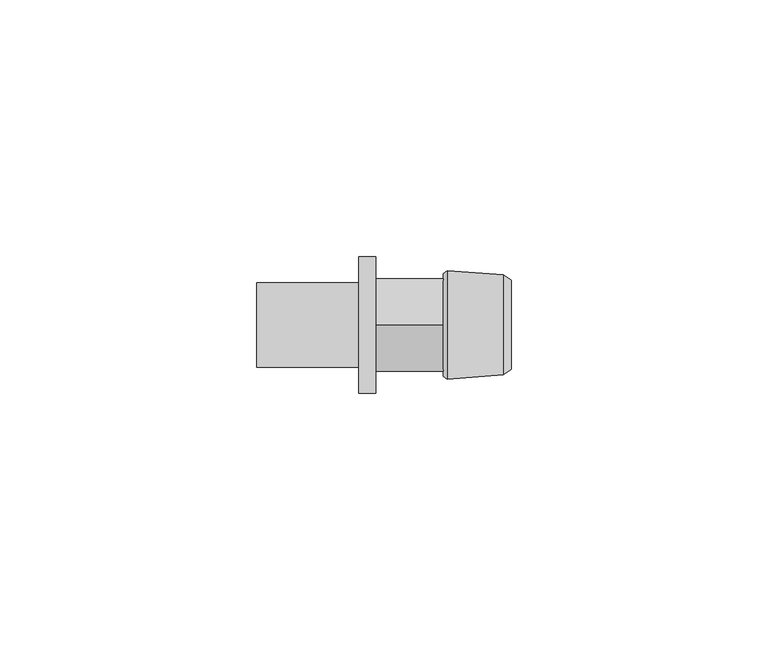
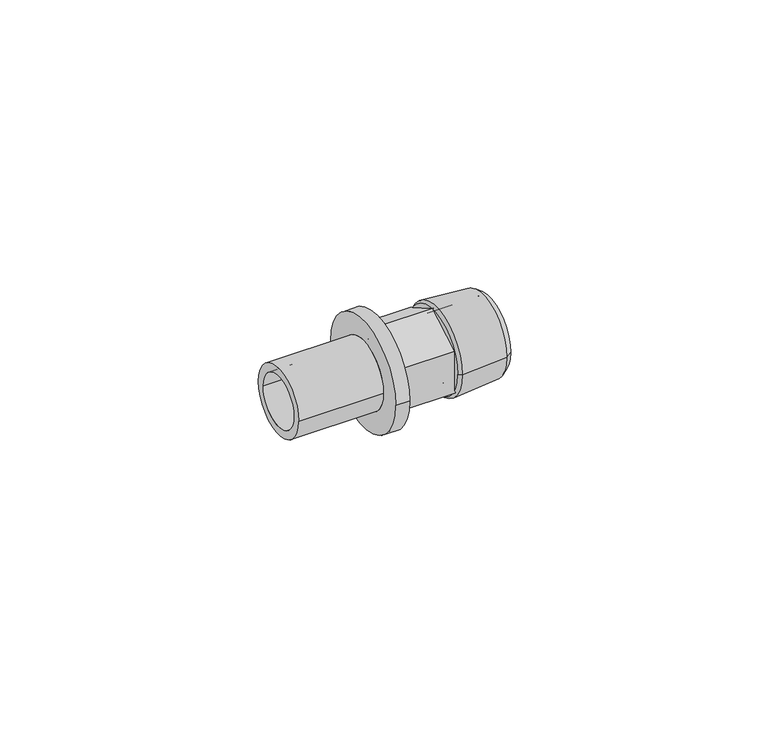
"""IFC4 building model written with IfcOpenShell, lengths in millimetres: pipe fitting geometry, RAUTITAN_Adapter_external_thread LX+G_LX : RTI A external LX+G_LX DE."""

from ifc_helpers import new_model, si_unit, frame, origin, place, context, project, spatial, polyline, circle_curve, outline, extrude, source, transform, mapped, element, save
from ifc_brep_helpers import plane_surface, cylinder_surface, revolved_surface, advanced_brep


def pipe_fitting_724b9a9d(model_context):
    return source(origin(), model_context, "Body", "SolidModel", [
        advanced_brep(
        [(-3.33, 8.225, 0.0), (-3.33, -8.225, 0.0), (-23.19, -8.225, 0.0), (-23.19, 8.225, 0.0), (0.0, 13.25, 0.0), (0.0, -13.25, 0.0), (-3.33, -13.25, 0.0), (-3.33, 13.25, 0.0), (-23.19, 6.25, 0.0), (-23.19, -6.25, 0.0), (0.0, -6.25, 0.0), (0.0, 6.25, 0.0)],
        [
            (0, 1, circle_curve(frame((-3.33, 0.0, 0.0), z_axis=(-1.0, 0.0, 0.0), x_axis=(0.0, -1.0, 0.0)), 8.225)),
            (1, 2),
            (2, 3, circle_curve(frame((-23.19, 0.0, 0.0), z_axis=(1.0, 0.0, 0.0), x_axis=(0.0, -1.0, 0.0)), 8.225)),
            (3, 0),
            (4, 5, circle_curve(frame((0.0, 0.0, 0.0), z_axis=(-1.0, 0.0, 0.0), x_axis=(0.0, -1.0, 0.0)), 13.25)),
            (5, 6),
            (6, 7, circle_curve(frame((-3.33, 0.0, 0.0), z_axis=(1.0, 0.0, 0.0), x_axis=(0.0, -1.0, 0.0)), 13.25)),
            (7, 4),
            (8, 9, circle_curve(frame((-23.19, 0.0, 0.0), z_axis=(-1.0, 0.0, 0.0), x_axis=(0.0, -1.0, 0.0)), 6.25)),
            (9, 10),
            (10, 11, circle_curve(frame((0.0, 0.0, 0.0), z_axis=(1.0, 0.0, 0.0), x_axis=(0.0, -1.0, 0.0)), 6.25)),
            (11, 8),
            (2, 3, circle_curve(frame((-23.19, 0.0, 0.0), z_axis=(-1.0, 0.0, 0.0), x_axis=(0.0, 1.0, 0.0)), 8.225)),
            (8, 9, circle_curve(frame((-23.19, 0.0, 0.0), z_axis=(1.0, 0.0, 0.0), x_axis=(0.0, 1.0, 0.0)), 6.25)),
            (1, 0, circle_curve(frame((-3.33, 0.0, 0.0), z_axis=(-1.0, 0.0, 0.0), x_axis=(0.0, 1.0, 0.0)), 8.225)),
            (6, 7, circle_curve(frame((-3.33, 0.0, 0.0), z_axis=(-1.0, 0.0, 0.0), x_axis=(0.0, 1.0, 0.0)), 13.25)),
            (5, 4, circle_curve(frame((0.0, 0.0, 0.0), z_axis=(-1.0, 0.0, 0.0), x_axis=(0.0, 1.0, 0.0)), 13.25)),
            (10, 11, circle_curve(frame((0.0, 0.0, 0.0), z_axis=(-1.0, 0.0, 0.0), x_axis=(0.0, 1.0, 0.0)), 6.25)),
        ],
        [
            cylinder_surface(frame((0.0, 0.0, 0.0), z_axis=(1.0, 0.0, 0.0), x_axis=(0.0, -1.0, 0.0)), 8.225),
            cylinder_surface(frame((0.0, 0.0, 0.0), z_axis=(1.0, 0.0, 0.0), x_axis=(0.0, -1.0, 0.0)), 13.25),
            revolved_surface(polyline([(0.0, -6.25, 0.0), (-23.19, -6.25, 0.0)]), (0.0, 0.0, 0.0), (1.0, 0.0, 0.0)),
            plane_surface(frame((-23.19, 0.0, 0.0), z_axis=(-1.0, 0.0, 0.0), x_axis=(0.0, 1.0, 0.0))),
            cylinder_surface(frame((0.0, 0.0, 0.0), z_axis=(1.0, 0.0, 0.0), x_axis=(0.0, 1.0, 0.0)), 8.225),
            plane_surface(frame((-3.33, 0.0, 0.0), z_axis=(-1.0, 0.0, 0.0), x_axis=(0.0, 1.0, 0.0))),
            cylinder_surface(frame((0.0, 0.0, 0.0), z_axis=(1.0, 0.0, 0.0), x_axis=(0.0, 1.0, 0.0)), 13.25),
            plane_surface(frame((0.0, 0.0, 0.0), z_axis=(1.0, 0.0, 0.0), x_axis=(0.0, 1.0, 0.0))),
            revolved_surface(polyline([(0.0, 6.25, 0.0), (-23.19, 6.25, 0.0)]), (0.0, 0.0, 0.0), (1.0, 0.0, 0.0)),
        ],
        [
            (0, [[1, 2, 3, 4]]),
            (1, [[5, 6, 7, 8]]),
            (2, [[9, 10, 11, 12]]),
            (3, [[13, -3], [14, -9]]),
            (4, [[15, -4, -13, -2]]),
            (5, [[16, -7], [-15, -1]]),
            (6, [[17, -8, -16, -6]]),
            (7, [[-17, -5], [18, -11]]),
            (8, [[-14, -12, -18, -10]]),
        ],
    ),
        advanced_brep(
        [(14.2132803, 7.5, 0.0), (14.2132803, -7.5, 0.0), (26.31, -7.5, 0.0), (26.31, 7.5, 0.0), (13.11, 6.3967197, 0.0), (13.11, -6.3967197, 0.0), (13.8506902, 10.525, 0.0), (13.8506902, -10.525, 0.0), (13.11, -10.0, 0.0), (13.11, 10.0, 0.0), (24.8100007, 9.73, 0.0), (24.8100007, -9.73, 0.0), (26.31, 8.675, 0.0), (26.31, -8.675, 0.0)],
        [
            (0, 1, circle_curve(frame((14.2132803, 0.0, 0.0), z_axis=(-1.0, 0.0, 0.0), x_axis=(0.0, -1.0, 0.0)), 7.5)),
            (1, 2),
            (2, 3, circle_curve(frame((26.31, 0.0, 0.0), z_axis=(1.0, 0.0, 0.0), x_axis=(0.0, -1.0, 0.0)), 7.5)),
            (3, 0),
            (4, 5, circle_curve(frame((13.11, 0.0, 0.0), z_axis=(-1.0, 0.0, 0.0), x_axis=(0.0, -1.0, 0.0)), 6.3967197)),
            (5, 1),
            (0, 4),
            (6, 7, circle_curve(frame((13.8506902, 0.0, 0.0), z_axis=(-1.0, 0.0, 0.0), x_axis=(0.0, -1.0, 0.0)), 10.525)),
            (7, 8),
            (8, 9, circle_curve(frame((13.11, 0.0, 0.0), z_axis=(1.0, 0.0, 0.0), x_axis=(0.0, -1.0, 0.0)), 10.0)),
            (9, 6),
            (10, 11, circle_curve(frame((24.8100007, 0.0, 0.0), z_axis=(-1.0, 0.0, 0.0), x_axis=(0.0, -1.0, 0.0)), 9.73)),
            (11, 7),
            (6, 10),
            (12, 13, circle_curve(frame((26.31, 0.0, 0.0), z_axis=(-1.0, 0.0, 0.0), x_axis=(0.0, -1.0, 0.0)), 8.675)),
            (13, 11),
            (10, 12),
            (1, 0, circle_curve(frame((14.2132803, 0.0, 0.0), z_axis=(-1.0, 0.0, 0.0), x_axis=(0.0, 1.0, 0.0)), 7.5)),
            (3, 2, circle_curve(frame((26.31, 0.0, 0.0), z_axis=(1.0, 0.0, 0.0), x_axis=(0.0, 1.0, 0.0)), 7.5)),
            (5, 4, circle_curve(frame((13.11, 0.0, 0.0), z_axis=(-1.0, 0.0, 0.0), x_axis=(0.0, 1.0, 0.0)), 6.3967197)),
            (8, 9, circle_curve(frame((13.11, 0.0, 0.0), z_axis=(-1.0, 0.0, 0.0), x_axis=(0.0, 1.0, 0.0)), 10.0)),
            (7, 6, circle_curve(frame((13.8506902, 0.0, 0.0), z_axis=(-1.0, 0.0, 0.0), x_axis=(0.0, 1.0, 0.0)), 10.525)),
            (11, 10, circle_curve(frame((24.8100007, 0.0, 0.0), z_axis=(-1.0, 0.0, 0.0), x_axis=(0.0, 1.0, 0.0)), 9.73)),
            (13, 12, circle_curve(frame((26.31, 0.0, 0.0), z_axis=(-1.0, 0.0, 0.0), x_axis=(0.0, 1.0, 0.0)), 8.675)),
        ],
        [
            revolved_surface(polyline([(26.31, -7.5, 0.0), (14.2132803, -7.5, 0.0)]), (0.0, 0.0, 0.0), (1.0, 0.0, 0.0)),
            revolved_surface(polyline([(14.2132803, -7.5, 0.0), (13.11, -6.3967197, 0.0)]), (0.0, 0.0, 0.0), (1.0, 0.0, 0.0)),
            revolved_surface(polyline([(13.11, -10.0, 0.0), (13.8506902, -10.525, 0.0)]), (0.0, 0.0, 0.0), (1.0, 0.0, 0.0)),
            revolved_surface(polyline([(13.8506902, -10.525, 0.0), (24.8100007, -9.73, 0.0)]), (0.0, 0.0, 0.0), (1.0, 0.0, 0.0)),
            revolved_surface(polyline([(24.8100007, -9.73, 0.0), (26.31, -8.675, 0.0)]), (0.0, 0.0, 0.0), (1.0, 0.0, 0.0)),
            revolved_surface(polyline([(26.31, 7.5, 0.0), (14.2132803, 7.5, 0.0)]), (0.0, 0.0, 0.0), (1.0, 0.0, 0.0)),
            revolved_surface(polyline([(14.2132803, 7.5, 0.0), (13.11, 6.3967197, 0.0)]), (0.0, 0.0, 0.0), (1.0, 0.0, 0.0)),
            plane_surface(frame((13.11, 0.0, 0.0), z_axis=(-1.0, 0.0, 0.0), x_axis=(0.0, 1.0, 0.0))),
            revolved_surface(polyline([(13.11, 10.0, 0.0), (13.8506902, 10.525, 0.0)]), (0.0, 0.0, 0.0), (1.0, 0.0, 0.0)),
            revolved_surface(polyline([(13.8506902, 10.525, 0.0), (24.8100007, 9.73, 0.0)]), (0.0, 0.0, 0.0), (1.0, 0.0, 0.0)),
            revolved_surface(polyline([(24.8100007, 9.73, 0.0), (26.31, 8.675, 0.0)]), (0.0, 0.0, 0.0), (1.0, 0.0, 0.0)),
            plane_surface(frame((26.31, 0.0, 0.0), z_axis=(1.0, 0.0, 0.0), x_axis=(0.0, 1.0, 0.0))),
        ],
        [
            (0, [[1, 2, 3, 4]]),
            (1, [[5, 6, -1, 7]]),
            (2, [[8, 9, 10, 11]]),
            (3, [[12, 13, -8, 14]]),
            (4, [[15, 16, -12, 17]]),
            (5, [[18, -4, 19, -2]]),
            (6, [[20, -7, -18, -6]]),
            (7, [[21, -10], [-20, -5]]),
            (8, [[22, -11, -21, -9]]),
            (9, [[23, -14, -22, -13]]),
            (10, [[24, -17, -23, -16]]),
            (11, [[-24, -15], [-19, -3]]),
        ],
    ),
        extrude(outline(polyline([(-9.0, 5.1961524), (0.0, 10.3923048), (9.0, 5.1961524), (9.0, -5.1961524), (0.0, -10.3923048), (-9.0, -5.1961524), (-9.0, 5.1961524)])), frame((0.0, 0.0, 0.0), z_axis=(1.0, 0.0, 0.0), x_axis=(0.0, 1.0, 0.0)), (0.0, 0.0, 1.0), 13.11),
    ])


if __name__ == "__main__":
    model = new_model("IFC4")
    model_context = context("Model", 3, world=origin())
    ifc_project = project(units=[si_unit("LENGTHUNIT", "METRE", prefix="MILLI")], contexts=[model_context])
    site = spatial("IfcSite", under=ifc_project)
    building = spatial("IfcBuilding", under=site)
    placement = place(None, origin())
    pipe_fitting_shape = pipe_fitting_724b9a9d(model_context)
    element("IfcPipeFitting", 1, ObjectType="RAUTITAN_Adapter_external_thread LX+G_LX : RTI A external LX+G_LX DE", at=placement, inside=building, context=model_context, shape_type="MappedRepresentation", body=[
        mapped(pipe_fitting_shape, transform((0.0, 0.0, 0.0), x_axis=(1.0, 0.0, 0.0), y_axis=(0.0, 1.0, 0.0), z_axis=(0.0, 0.0, 1.0))),
    ])
    save(model, "model.ifc")
